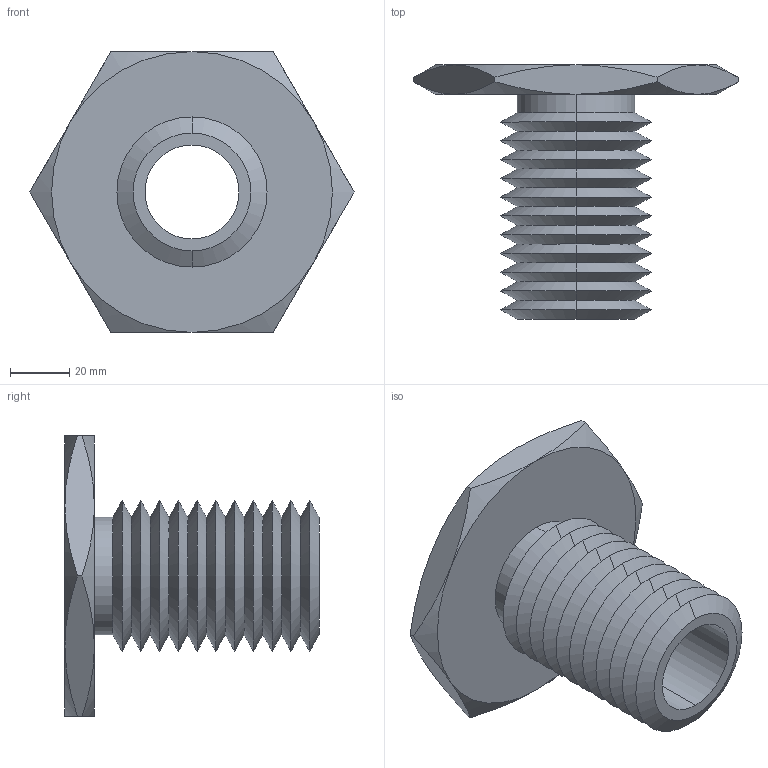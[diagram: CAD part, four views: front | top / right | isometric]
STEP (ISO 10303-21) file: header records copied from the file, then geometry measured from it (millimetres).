
FILE_DESCRIPTION (( 'STEP AP203' ), '1' );
FILE_NAME ('63302.W5200_1,25 UNC-7.step', '2013-12-08T11:50:57', ( 'User' ), ( '' ), 'SwSTEP 2.0', 'SolidWorks 2009', '' );
FILE_SCHEMA (( 'CONFIG_CONTROL_DESIGN' ));
Length unit declared in the file: millimetre
Products named in the file (1): 63302.W5200_1,25 UNC-7
Bounding box: 109.7 x 86 x 95 mm (x, y, z)
Volume: 128288.4 mm3; surface area: 45640.4 mm2
Topology: 1 solids, 1 shells, 71 faces, 146 edges, 78 vertices
Faces by surface type: cone 58, plane 9, cylinder 4
Entity records: 2071 total; most frequent: CARTESIAN_POINT 512, DIRECTION 332, ORIENTED_EDGE 292, EDGE_CURVE 146, AXIS2_PLACEMENT_3D 138, VERTEX_POINT 78, EDGE_LOOP 74, ADVANCED_FACE 71
